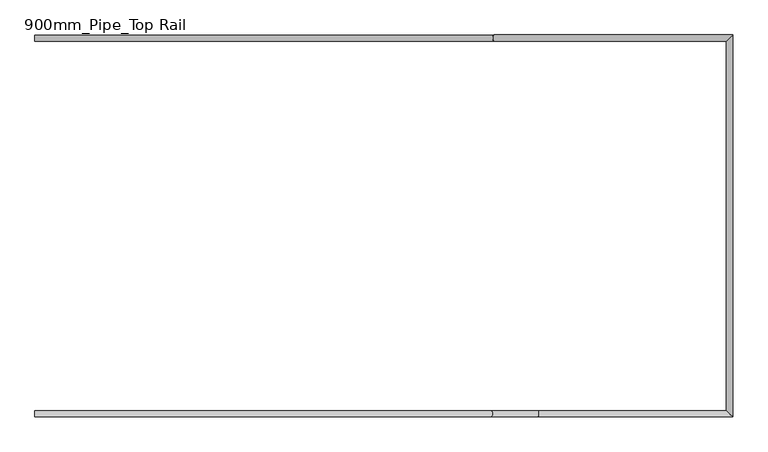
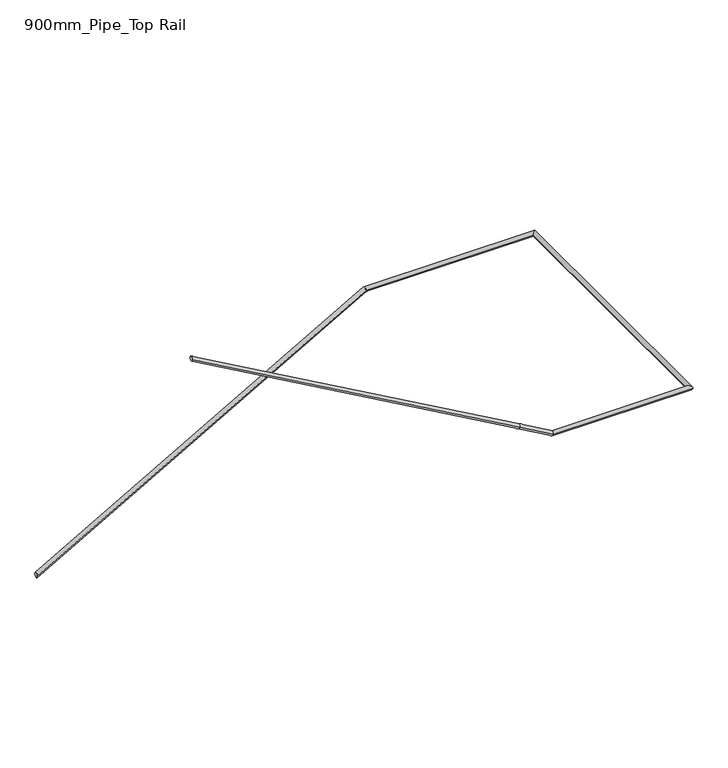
"""IFC4 building model written with IfcOpenShell, lengths in millimetres: railing geometry, 900mm_Pipe_Top Rail."""

from ifc_helpers import new_model, si_unit, frame, origin, place, context, project, spatial, circle_curve, ellipse_curve, source, transform, mapped, element, save
from ifc_brep_helpers import plane_surface, cylinder_surface, advanced_brep


def railing_900mm_pipe_top_rail_96baf40c(model_context):
    return source(origin(), model_context, "Body", "AdvancedBrep", [
        advanced_brep(
        [(-801.4958562, 13503.7395051, 8557.451671), (-801.4958562, 13543.7395051, 8557.451671), (2203.7892028, 13503.7395051, 10265.0), (2203.7892028, 13543.7395051, 10265.0), (3728.1041438, 13503.7395051, 10265.0), (3768.1041438, 13543.7395051, 10265.0), (3728.1041438, 11085.0238126, 10265.0), (3768.1041438, 11045.0238126, 10265.0), (2493.2190848, 11085.0238126, 10265.0), (2493.2190848, 11045.0238126, 10265.0), (2188.6239556, 11085.0238126, 10438.0654143), (2188.6239556, 11045.0238126, 10438.0654143), (-801.4958562, 11085.0238126, 12136.9971256), (-801.4958562, 11045.0238126, 12136.9971256)],
        [
            (0, 1, ellipse_curve(frame((-801.4958562, 13523.7395051, 8557.451671), z_axis=(-1.0, 0.0, 0.0), x_axis=(0.0, 0.0, -0.9999999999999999)), 23.0028744, 20.0)),
            (1, 0, ellipse_curve(frame((-801.4958562, 13523.7395051, 8557.451671), z_axis=(-1.0, 0.0, 0.0), x_axis=(0.0, 0.0, -0.9999999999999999)), 23.0028744, 20.0)),
            (0, 2),
            (2, 3, ellipse_curve(frame((2203.7892028, 13523.7395051, 10265.0), z_axis=(-0.9668134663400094, 0.0, -0.25548330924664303), x_axis=(0.2554833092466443, 0.0, -0.9668134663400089)), 20.6865137, 20.0)),
            (3, 1),
            (3, 2, ellipse_curve(frame((2203.7892028, 13523.7395051, 10265.0), z_axis=(-0.9668134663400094, 0.0, -0.25548330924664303), x_axis=(0.2554833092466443, 0.0, -0.9668134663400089)), 20.6865137, 20.0)),
            (2, 4),
            (4, 5, ellipse_curve(frame((3748.1041438, 13523.7395051, 10265.0), z_axis=(-0.7071067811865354, 0.7071067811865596, 0.0), x_axis=(-0.7071067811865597, -0.7071067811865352, 0.0)), 28.2842712, 20.0)),
            (5, 3),
            (5, 4, ellipse_curve(frame((3748.1041438, 13523.7395051, 10265.0), z_axis=(-0.7071067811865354, 0.7071067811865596, 0.0), x_axis=(-0.7071067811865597, -0.7071067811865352, 0.0)), 28.2842712, 20.0)),
            (4, 6),
            (6, 7, ellipse_curve(frame((3748.1041438, 11065.0238126, 10265.0), z_axis=(0.7071067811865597, 0.7071067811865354, 0.0), x_axis=(-0.7071067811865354, 0.7071067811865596, 0.0)), 28.2842712, 20.0)),
            (7, 5),
            (7, 6, ellipse_curve(frame((3748.1041438, 11065.0238126, 10265.0), z_axis=(0.7071067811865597, 0.7071067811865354, 0.0), x_axis=(-0.7071067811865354, 0.7071067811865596, 0.0)), 28.2842712, 20.0)),
            (6, 8),
            (8, 9, ellipse_curve(frame((2493.2190848, 11065.0238126, 10265.0), z_axis=(0.9668134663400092, 0.0, -0.2554833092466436), x_axis=(0.255483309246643, 0.0, 0.9668134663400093)), 20.6865137, 20.0)),
            (9, 7),
            (9, 8, ellipse_curve(frame((2493.2190848, 11065.0238126, 10265.0), z_axis=(0.9668134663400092, 0.0, -0.2554833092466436), x_axis=(0.255483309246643, 0.0, 0.9668134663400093)), 20.6865137, 20.0)),
            (8, 10),
            (10, 11, circle_curve(frame((2188.6239556, 11065.0238126, 10438.0654143), z_axis=(0.8694565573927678, 0.0, -0.4940094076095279), x_axis=(0.0, -1.0, 0.0)), 20.0)),
            (11, 9),
            (11, 10, circle_curve(frame((2188.6239556, 11065.0238126, 10438.0654143), z_axis=(0.8694565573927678, 0.0, -0.4940094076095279), x_axis=(0.0, -1.0, 0.0)), 20.0)),
            (12, 13, ellipse_curve(frame((-801.4958562, 11065.0238126, 12136.9971256), z_axis=(-1.0, 0.0, 0.0), x_axis=(0.0, 0.0, -1.0)), 23.0028744, 20.0)),
            (13, 12, ellipse_curve(frame((-801.4958562, 11065.0238126, 12136.9971256), z_axis=(-1.0, 0.0, 0.0), x_axis=(0.0, 0.0, -1.0)), 23.0028744, 20.0)),
            (10, 12),
            (13, 11),
        ],
        [
            plane_surface(frame((-801.4958562, 13523.7395051, 8580.4545455), z_axis=(-1.0, 0.0, 0.0), x_axis=(0.0, 1.0, 0.0))),
            cylinder_surface(frame((-791.6156681, 13523.7395051, 8563.0654143), z_axis=(-0.8694565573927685, 0.0, -0.49400940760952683), x_axis=(0.0, 1.0, 0.0)), 20.0),
            cylinder_surface(frame((2198.5041438, 13523.7395051, 10265.0), z_axis=(-1.0, 0.0, 0.0), x_axis=(0.0, 1.0, 0.0)), 20.0),
            cylinder_surface(frame((3748.1041438, 13523.7395051, 10265.0), z_axis=(0.0, 1.0, 0.0), x_axis=(1.0, 0.0, 0.0)), 20.0),
            cylinder_surface(frame((3748.1041438, 11065.0238126, 10265.0), z_axis=(1.0, 0.0, 0.0), x_axis=(0.0, -1.0, 0.0)), 20.0),
            cylinder_surface(frame((2488.6239556, 11065.0238126, 10267.6108689), z_axis=(0.8694565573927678, 0.0, -0.4940094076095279), x_axis=(0.0, -1.0, 0.0)), 20.0),
            plane_surface(frame((-801.4958562, 11065.0238126, 12160.0), z_axis=(-1.0, 0.0, 0.0), x_axis=(0.0, -1.0, 0.0))),
            cylinder_surface(frame((2188.6239556, 11065.0238126, 10438.0654143), z_axis=(0.8694565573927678, 0.0, -0.49400940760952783), x_axis=(0.0, -1.0, 0.0)), 20.0),
        ],
        [
            (0, [[1, 2]]),
            (1, [[-1, 3, 4, 5]]),
            (1, [[-2, -5, 6, -3]]),
            (2, [[-4, 7, 8, 9]]),
            (2, [[-6, -9, 10, -7]]),
            (3, [[-8, 11, 12, 13]]),
            (3, [[-10, -13, 14, -11]]),
            (4, [[-12, 15, 16, 17]]),
            (4, [[-14, -17, 18, -15]]),
            (5, [[-16, 19, 20, 21]]),
            (5, [[-18, -21, 22, -19]]),
            (6, [[23, 24]]),
            (7, [[-20, 25, -24, 26]]),
            (7, [[-22, -26, -23, -25]]),
        ],
    ),
    ])


if __name__ == "__main__":
    model = new_model("IFC4")
    model_context = context("Model", 3, world=origin())
    ifc_project = project(units=[si_unit("LENGTHUNIT", "METRE", prefix="MILLI")], contexts=[model_context])
    site = spatial("IfcSite", under=ifc_project)
    building = spatial("IfcBuilding", under=site)
    placement = place(None, origin())
    railing_900mm_pipe_top_rail_shape = railing_900mm_pipe_top_rail_96baf40c(model_context)
    element("IfcRailing", 1, ObjectType="900mm_Pipe_Top Rail", at=placement, inside=building, context=model_context, shape_type="MappedRepresentation", body=[
        mapped(railing_900mm_pipe_top_rail_shape, transform((0.0, 0.0, 0.0), x_axis=(1.0, 0.0, 0.0), y_axis=(0.0, 1.0, 0.0), z_axis=(0.0, 0.0, 1.0))),
    ])
    save(model, "model.ifc")
